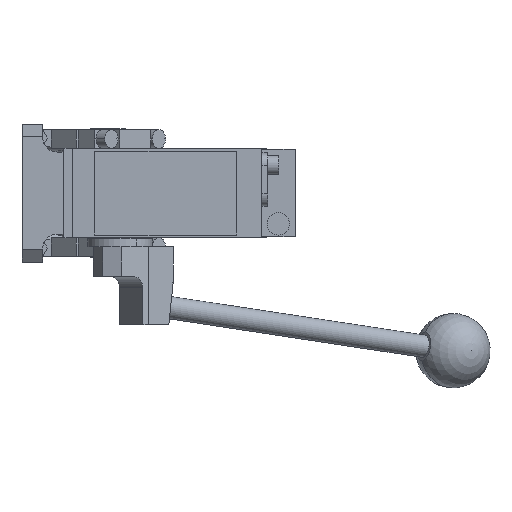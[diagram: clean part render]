
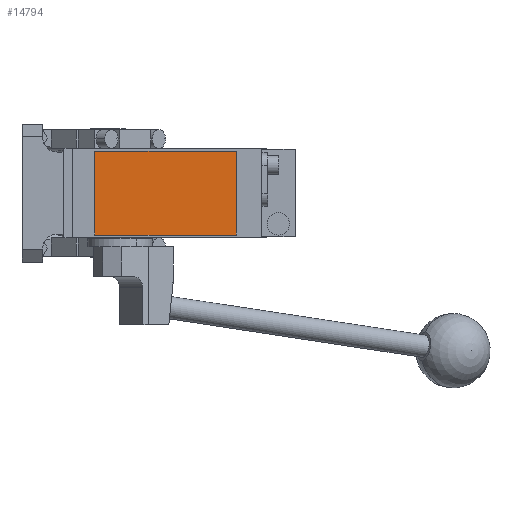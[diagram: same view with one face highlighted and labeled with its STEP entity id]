
A CAD part, front view. The second image highlights one B-rep face of the part: STEP entity #14794.
In plain terms, the highlighted planar face has unit normal (0, -1, 0).
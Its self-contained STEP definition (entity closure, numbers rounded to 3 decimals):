
#3 = CARTESIAN_POINT ( 'NONE',  ( -7., -280.5, 22.5 ) ) ;
#145 = DIRECTION ( 'NONE',  ( 0., 0., -1. ) ) ;
#308 = ORIENTED_EDGE ( 'NONE', *, *, #10261, .T. ) ;
#583 = VERTEX_POINT ( 'NONE', #12714 ) ;
#1055 = ORIENTED_EDGE ( 'NONE', *, *, #13174, .T. ) ;
#1190 = DIRECTION ( 'NONE',  ( 0., 0., 1. ) ) ;
#1641 = CARTESIAN_POINT ( 'NONE',  ( 69., -280.5, -22.5 ) ) ;
#1885 = CARTESIAN_POINT ( 'NONE',  ( 0., -280.5, 0. ) ) ;
#2197 = DIRECTION ( 'NONE',  ( 0., -1., 0. ) ) ;
#3717 = LINE ( 'NONE', #3, #5865 ) ;
#3767 = VECTOR ( 'NONE', #8617, 1000. ) ;
#3941 = EDGE_CURVE ( 'NONE', #7701, #583, #6854, .T. ) ;
#4340 = ORIENTED_EDGE ( 'NONE', *, *, #7137, .T. ) ;
#4805 = LINE ( 'NONE', #13447, #3767 ) ;
#5466 = AXIS2_PLACEMENT_3D ( 'NONE', #1885, #2197, #5704 ) ;
#5704 = DIRECTION ( 'NONE',  ( 0., 0., -1. ) ) ;
#5865 = VECTOR ( 'NONE', #145, 1000. ) ;
#6591 = CARTESIAN_POINT ( 'NONE',  ( -7., -280.5, -22.5 ) ) ;
#6854 = LINE ( 'NONE', #11752, #9087 ) ;
#7024 = DIRECTION ( 'NONE',  ( -1., 0., 0. ) ) ;
#7137 = EDGE_CURVE ( 'NONE', #13762, #14720, #4805, .T. ) ;
#7701 = VERTEX_POINT ( 'NONE', #12547 ) ;
#8365 = EDGE_LOOP ( 'NONE', ( #308, #4340, #1055, #12449 ) ) ;
#8617 = DIRECTION ( 'NONE',  ( 1., 0., 0. ) ) ;
#9069 = VECTOR ( 'NONE', #1190, 1000. ) ;
#9087 = VECTOR ( 'NONE', #7024, 1000. ) ;
#10023 = LINE ( 'NONE', #13721, #9069 ) ;
#10261 = EDGE_CURVE ( 'NONE', #583, #13762, #3717, .T. ) ;
#11752 = CARTESIAN_POINT ( 'NONE',  ( -7., -280.5, 22.5 ) ) ;
#12061 = PLANE ( 'NONE',  #5466 ) ;
#12449 = ORIENTED_EDGE ( 'NONE', *, *, #3941, .T. ) ;
#12547 = CARTESIAN_POINT ( 'NONE',  ( 69., -280.5, 22.5 ) ) ;
#12714 = CARTESIAN_POINT ( 'NONE',  ( -7., -280.5, 22.5 ) ) ;
#13174 = EDGE_CURVE ( 'NONE', #14720, #7701, #10023, .T. ) ;
#13447 = CARTESIAN_POINT ( 'NONE',  ( -7., -280.5, -22.5 ) ) ;
#13721 = CARTESIAN_POINT ( 'NONE',  ( 69., -280.5, 22.5 ) ) ;
#13762 = VERTEX_POINT ( 'NONE', #6591 ) ;
#14396 = FACE_OUTER_BOUND ( 'NONE', #8365, .T. ) ;
#14720 = VERTEX_POINT ( 'NONE', #1641 ) ;
#14794 = ADVANCED_FACE ( 'NONE', ( #14396 ), #12061, .T. ) ;
